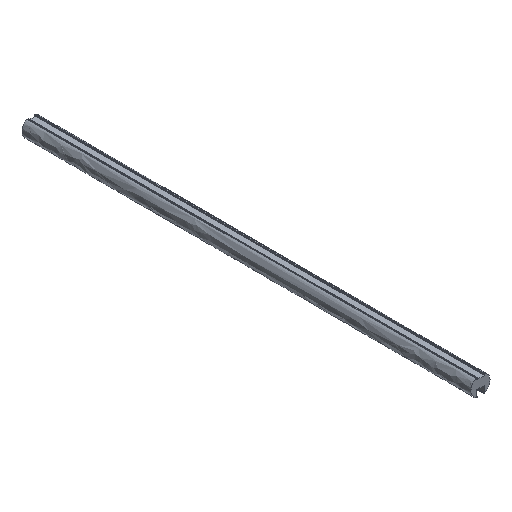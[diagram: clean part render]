
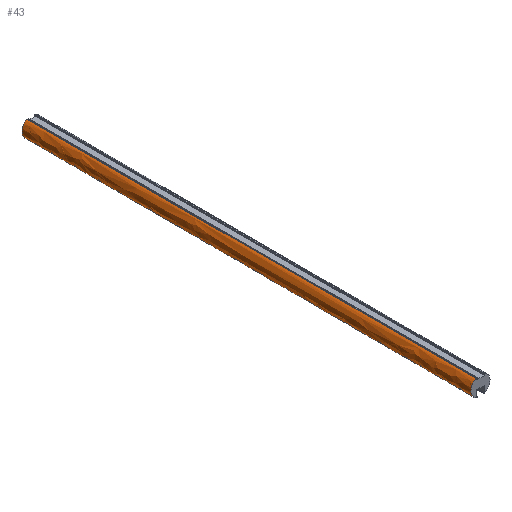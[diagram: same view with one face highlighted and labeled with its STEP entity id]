
A CAD part, isometric view. The second image highlights one B-rep face of the part: STEP entity #43.
In plain terms, the highlighted free-form (B-spline) face has degree [2, 1] with [13, 2] control points.
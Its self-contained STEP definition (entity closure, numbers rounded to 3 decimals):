
#43=ADVANCED_FACE('',(#71),#473,.T.);
#71=FACE_OUTER_BOUND('',#99,.T.);
#99=EDGE_LOOP('',(#184,#185,#186,#187));
#184=ORIENTED_EDGE('',*,*,#322,.T.);
#185=ORIENTED_EDGE('',*,*,#323,.T.);
#186=ORIENTED_EDGE('',*,*,#324,.F.);
#187=ORIENTED_EDGE('',*,*,#320,.F.);
#320=EDGE_CURVE('',#458,#459,#398,.T.);
#322=EDGE_CURVE('',#458,#460,#400,.T.);
#323=EDGE_CURVE('',#460,#461,#401,.T.);
#324=EDGE_CURVE('',#459,#461,#402,.T.);
#398=(
BOUNDED_CURVE()
B_SPLINE_CURVE(1,(#889,#890),.UNSPECIFIED.,.F.,.F.)
B_SPLINE_CURVE_WITH_KNOTS((2,2),(0.,1180.),.UNSPECIFIED.)
CURVE()
GEOMETRIC_REPRESENTATION_ITEM()
RATIONAL_B_SPLINE_CURVE((1.,1.))
REPRESENTATION_ITEM('')
);
#400=(
BOUNDED_CURVE()
B_SPLINE_CURVE(2,(#894,#895,#896,#897,#898,#899,#900,#901,#902,#903,#904,
#905,#906),.UNSPECIFIED.,.F.,.F.)
B_SPLINE_CURVE_WITH_KNOTS((3,2,2,2,2,2,3),(-254.385,-253.616,
-252.093,-250.57,-222.483,-194.397,
-194.257),.UNSPECIFIED.)
CURVE()
GEOMETRIC_REPRESENTATION_ITEM()
RATIONAL_B_SPLINE_CURVE((1.,0.718,1.,0.874,1.,0.874,
1.,0.846,1.,0.846,1.,0.973,1.))
REPRESENTATION_ITEM('')
);
#401=(
BOUNDED_CURVE()
B_SPLINE_CURVE(1,(#907,#908),.UNSPECIFIED.,.F.,.F.)
B_SPLINE_CURVE_WITH_KNOTS((2,2),(0.,1180.),.UNSPECIFIED.)
CURVE()
GEOMETRIC_REPRESENTATION_ITEM()
RATIONAL_B_SPLINE_CURVE((1.,1.))
REPRESENTATION_ITEM('')
);
#402=(
BOUNDED_CURVE()
B_SPLINE_CURVE(2,(#909,#910,#911,#912,#913,#914,#915,#916,#917,#918,#919,
#920,#921),.UNSPECIFIED.,.F.,.F.)
B_SPLINE_CURVE_WITH_KNOTS((3,2,2,2,2,2,3),(-254.385,-253.616,
-252.093,-250.57,-222.483,-194.397,
-194.257),.UNSPECIFIED.)
CURVE()
GEOMETRIC_REPRESENTATION_ITEM()
RATIONAL_B_SPLINE_CURVE((1.,0.718,1.,0.874,1.,0.874,
1.,0.846,1.,0.846,1.,0.973,1.))
REPRESENTATION_ITEM('')
);
#458=VERTEX_POINT('',#694);
#459=VERTEX_POINT('',#695);
#460=VERTEX_POINT('',#696);
#461=VERTEX_POINT('',#697);
#473=(
BOUNDED_SURFACE()
B_SPLINE_SURFACE(2,1,((#622,#623),(#624,#625),(#626,#627),(#628,#629),(#630,
#631),(#632,#633),(#634,#635),(#636,#637),(#638,#639),(#640,#641),(#642,
#643),(#644,#645),(#646,#647)),.UNSPECIFIED.,.F.,.F.,.F.)
B_SPLINE_SURFACE_WITH_KNOTS((3,2,2,2,2,2,3),(2,2),(-254.385,-253.616,
-252.093,-250.57,-222.483,-194.397,
-194.257),(0.,1180.),.UNSPECIFIED.)
GEOMETRIC_REPRESENTATION_ITEM()
RATIONAL_B_SPLINE_SURFACE(((1.,1.),(0.718,0.718),
(1.,1.),(0.874,0.874),(1.,1.),(0.874,
0.874),(1.,1.),(0.846,0.846),(1.,1.),
(0.846,0.846),(1.,1.),(0.973,0.973),
(1.,1.)))
REPRESENTATION_ITEM('')
SURFACE()
);
#622=CARTESIAN_POINT('',(-1459.402,-4427.828,-45.622));
#623=CARTESIAN_POINT('',(-1459.402,-3247.828,-45.622));
#624=CARTESIAN_POINT('',(-1458.918,-4427.828,-45.622));
#625=CARTESIAN_POINT('',(-1458.918,-3247.828,-45.622));
#626=CARTESIAN_POINT('',(-1458.903,-4427.828,-46.106));
#627=CARTESIAN_POINT('',(-1458.903,-3247.828,-46.106));
#628=CARTESIAN_POINT('',(-1458.876,-4427.828,-46.94));
#629=CARTESIAN_POINT('',(-1458.876,-3247.828,-46.94));
#630=CARTESIAN_POINT('',(-1459.57,-4427.828,-47.402));
#631=CARTESIAN_POINT('',(-1459.57,-3247.828,-47.402));
#632=CARTESIAN_POINT('',(-1460.265,-4427.828,-47.865));
#633=CARTESIAN_POINT('',(-1460.265,-3247.828,-47.865));
#634=CARTESIAN_POINT('',(-1461.024,-4427.828,-47.519));
#635=CARTESIAN_POINT('',(-1461.024,-3247.828,-47.519));
#636=CARTESIAN_POINT('',(-1475.34,-4427.828,-40.991));
#637=CARTESIAN_POINT('',(-1475.34,-3247.828,-40.991));
#638=CARTESIAN_POINT('',(-1475.647,-4427.828,-25.26));
#639=CARTESIAN_POINT('',(-1475.647,-3247.828,-25.26));
#640=CARTESIAN_POINT('',(-1475.953,-4427.828,-9.529));
#641=CARTESIAN_POINT('',(-1475.953,-3247.828,-9.529));
#642=CARTESIAN_POINT('',(-1461.903,-4427.828,-2.447));
#643=CARTESIAN_POINT('',(-1461.903,-3247.828,-2.447));
#644=CARTESIAN_POINT('',(-1461.839,-4427.828,-2.415));
#645=CARTESIAN_POINT('',(-1461.839,-3247.828,-2.415));
#646=CARTESIAN_POINT('',(-1461.768,-4427.828,-2.415));
#647=CARTESIAN_POINT('',(-1461.768,-3247.828,-2.415));
#694=CARTESIAN_POINT('',(-1459.402,-4427.828,-45.622));
#695=CARTESIAN_POINT('',(-1459.402,-3247.828,-45.622));
#696=CARTESIAN_POINT('',(-1461.768,-4427.828,-2.415));
#697=CARTESIAN_POINT('',(-1461.768,-3247.828,-2.415));
#889=CARTESIAN_POINT('',(-1459.402,-4427.828,-45.622));
#890=CARTESIAN_POINT('',(-1459.402,-3247.828,-45.622));
#894=CARTESIAN_POINT('',(-1459.402,-4427.828,-45.622));
#895=CARTESIAN_POINT('',(-1458.918,-4427.828,-45.622));
#896=CARTESIAN_POINT('',(-1458.903,-4427.828,-46.106));
#897=CARTESIAN_POINT('',(-1458.876,-4427.828,-46.94));
#898=CARTESIAN_POINT('',(-1459.57,-4427.828,-47.402));
#899=CARTESIAN_POINT('',(-1460.265,-4427.828,-47.865));
#900=CARTESIAN_POINT('',(-1461.024,-4427.828,-47.519));
#901=CARTESIAN_POINT('',(-1475.34,-4427.828,-40.991));
#902=CARTESIAN_POINT('',(-1475.647,-4427.828,-25.26));
#903=CARTESIAN_POINT('',(-1475.953,-4427.828,-9.529));
#904=CARTESIAN_POINT('',(-1461.903,-4427.828,-2.447));
#905=CARTESIAN_POINT('',(-1461.839,-4427.828,-2.415));
#906=CARTESIAN_POINT('',(-1461.768,-4427.828,-2.415));
#907=CARTESIAN_POINT('',(-1461.768,-4427.828,-2.415));
#908=CARTESIAN_POINT('',(-1461.768,-3247.828,-2.415));
#909=CARTESIAN_POINT('',(-1459.402,-3247.828,-45.622));
#910=CARTESIAN_POINT('',(-1458.918,-3247.828,-45.622));
#911=CARTESIAN_POINT('',(-1458.903,-3247.828,-46.106));
#912=CARTESIAN_POINT('',(-1458.876,-3247.828,-46.94));
#913=CARTESIAN_POINT('',(-1459.57,-3247.828,-47.402));
#914=CARTESIAN_POINT('',(-1460.265,-3247.828,-47.865));
#915=CARTESIAN_POINT('',(-1461.024,-3247.828,-47.519));
#916=CARTESIAN_POINT('',(-1475.34,-3247.828,-40.991));
#917=CARTESIAN_POINT('',(-1475.647,-3247.828,-25.26));
#918=CARTESIAN_POINT('',(-1475.953,-3247.828,-9.529));
#919=CARTESIAN_POINT('',(-1461.903,-3247.828,-2.447));
#920=CARTESIAN_POINT('',(-1461.839,-3247.828,-2.415));
#921=CARTESIAN_POINT('',(-1461.768,-3247.828,-2.415));
